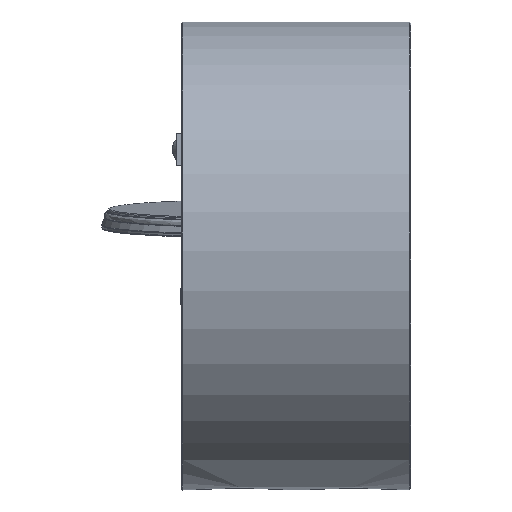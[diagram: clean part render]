
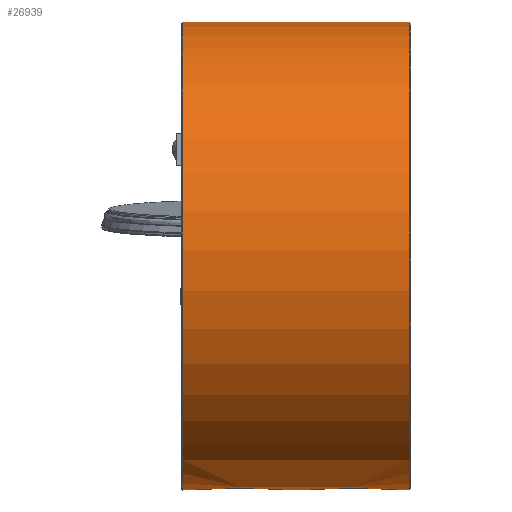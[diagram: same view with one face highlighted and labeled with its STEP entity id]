
A CAD part, left-side view. The second image highlights one B-rep face of the part: STEP entity #26939.
In plain terms, the highlighted free-form (B-spline) face has degree [2, 1] with [7, 2] control points.
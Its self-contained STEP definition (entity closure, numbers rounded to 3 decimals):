
#26174=CARTESIAN_POINT('V34',(0.5,112.5,
   0.0));
#26175=VERTEX_POINT('V34',#26174);
#26183=CARTESIAN_POINT('E41',(0.5,112.5,
   0.0));
#26184=CARTESIAN_POINT('E41',(0.5,112.5,
   -194.856));
#26185=CARTESIAN_POINT('E41',(0.5,-56.25,
   -97.428));
#26186=CARTESIAN_POINT('E41',(0.5,-225.,
   0.));
#26187=CARTESIAN_POINT('E41',(0.5,-56.25,
   97.428));
#26188=CARTESIAN_POINT('E41',(0.5,112.5,
   194.856));
#26189=CARTESIAN_POINT('E41',(0.5,112.5,
   0.0));
#26197=(BOUNDED_CURVE()B_SPLINE_CURVE(2,(#26183,#26184,#26185,
   #26186,#26187,#26188,#26189),.CIRCULAR_ARC.,.T.,.U.)
   B_SPLINE_CURVE_WITH_KNOTS((3,2,2,3),(0.0,549.91,
   1099.821,1649.731),.UNSPECIFIED.)CURVE()
   GEOMETRIC_REPRESENTATION_ITEM()RATIONAL_B_SPLINE_CURVE((1.0,
   0.5,1.0,0.5,1.0,0.5,1.0)
   )REPRESENTATION_ITEM('E41'));
#26198=EDGE_CURVE('E41',#26175,#26175,#26197,.T.);
#26768=CARTESIAN_POINT('V33',(109.5,
   112.5,0.0));
#26769=VERTEX_POINT('V33',#26768);
#26777=CARTESIAN_POINT('E38',(109.5,
   112.5,0.0));
#26778=CARTESIAN_POINT('E38',(109.5,
   112.5,-194.856));
#26779=CARTESIAN_POINT('E38',(109.5,
   -56.25,-97.428));
#26780=CARTESIAN_POINT('E38',(109.5,
   -225.,0.));
#26781=CARTESIAN_POINT('E38',(109.5,
   -56.25,97.428));
#26782=CARTESIAN_POINT('E38',(109.5,
   112.5,194.856));
#26783=CARTESIAN_POINT('E38',(109.5,
   112.5,0.0));
#26791=(BOUNDED_CURVE()B_SPLINE_CURVE(2,(#26777,#26778,#26779,
   #26780,#26781,#26782,#26783),.CIRCULAR_ARC.,.T.,.U.)
   B_SPLINE_CURVE_WITH_KNOTS((3,2,2,3),(0.0,3.575,
   7.151,10.726),.UNSPECIFIED.)CURVE()
   GEOMETRIC_REPRESENTATION_ITEM()RATIONAL_B_SPLINE_CURVE((1.0,
   0.5,1.0,0.5,1.0,0.5,1.0)
   )REPRESENTATION_ITEM('E38'));
#26792=EDGE_CURVE('E38',#26769,#26769,#26791,.T.);
#26802=CARTESIAN_POINT('V27',(99.037,112.5,
   0.0));
#26803=VERTEX_POINT('V27',#26802);
#26804=CARTESIAN_POINT('V28',(99.038,98.,
   55.247));
#26805=VERTEX_POINT('V28',#26804);
#26806=CARTESIAN_POINT('E30',(99.037,112.5,
   0.0));
#26807=CARTESIAN_POINT('E30',(99.038,112.5,
   29.526));
#26808=CARTESIAN_POINT('E30',(99.038,98.,
   55.247));
#26816=(BOUNDED_CURVE()B_SPLINE_CURVE(2,(#26806,#26807,#26808),
   .CIRCULAR_ARC.,.F.,.U.)CURVE()GEOMETRIC_REPRESENTATION_ITEM()
   QUASI_UNIFORM_CURVE()RATIONAL_B_SPLINE_CURVE((1.0,
   0.868,0.806))REPRESENTATION_ITEM('E30'));
#26817=EDGE_CURVE('E30',#26803,#26805,#26816,.T.);
#26819=CARTESIAN_POINT('V29',(99.038,98.,
   -55.247));
#26820=VERTEX_POINT('V29',#26819);
#26826=CARTESIAN_POINT('E32',(99.038,98.,
   -55.247));
#26827=CARTESIAN_POINT('E32',(99.038,112.5,
   -29.526));
#26828=CARTESIAN_POINT('E32',(99.037,112.5,
   0.0));
#26836=(BOUNDED_CURVE()B_SPLINE_CURVE(2,(#26826,#26827,#26828),
   .CIRCULAR_ARC.,.F.,.U.)CURVE()GEOMETRIC_REPRESENTATION_ITEM()
   QUASI_UNIFORM_CURVE()RATIONAL_B_SPLINE_CURVE((0.806,
   0.868,1.0))REPRESENTATION_ITEM('E32'));
#26837=EDGE_CURVE('E32',#26820,#26803,#26836,.T.);
#26847=CARTESIAN_POINT('V30',(50.962,112.5,
   0.0));
#26848=VERTEX_POINT('V30',#26847);
#26849=CARTESIAN_POINT('V31',(50.962,98.,
   -55.247));
#26850=VERTEX_POINT('V31',#26849);
#26851=CARTESIAN_POINT('E33',(50.962,112.5,
   0.0));
#26852=CARTESIAN_POINT('E33',(50.962,112.5,
   -29.526));
#26853=CARTESIAN_POINT('E33',(50.962,98.,
   -55.247));
#26861=(BOUNDED_CURVE()B_SPLINE_CURVE(2,(#26851,#26852,#26853),
   .CIRCULAR_ARC.,.F.,.U.)CURVE()GEOMETRIC_REPRESENTATION_ITEM()
   QUASI_UNIFORM_CURVE()RATIONAL_B_SPLINE_CURVE((1.0,
   0.868,0.806))REPRESENTATION_ITEM('E33'));
#26862=EDGE_CURVE('E33',#26848,#26850,#26861,.T.);
#26864=CARTESIAN_POINT('V32',(50.962,98.,
   55.247));
#26865=VERTEX_POINT('V32',#26864);
#26871=CARTESIAN_POINT('E35',(50.962,98.,
   55.247));
#26872=CARTESIAN_POINT('E35',(50.962,112.5,
   29.526));
#26873=CARTESIAN_POINT('E35',(50.962,112.5,
   0.0));
#26881=(BOUNDED_CURVE()B_SPLINE_CURVE(2,(#26871,#26872,#26873),
   .CIRCULAR_ARC.,.F.,.U.)CURVE()GEOMETRIC_REPRESENTATION_ITEM()
   QUASI_UNIFORM_CURVE()RATIONAL_B_SPLINE_CURVE((0.806,
   0.868,1.0))REPRESENTATION_ITEM('E35'));
#26882=EDGE_CURVE('E35',#26865,#26848,#26881,.T.);
#26887=CARTESIAN_POINT('F9',(0.5,112.5,
   0.0));
#26888=CARTESIAN_POINT('F9',(0.5,112.5,
   194.856));
#26889=CARTESIAN_POINT('F9',(0.5,-56.25,
   97.428));
#26890=CARTESIAN_POINT('F9',(0.5,-225.,
   0.));
#26891=CARTESIAN_POINT('F9',(0.5,-56.25,
   -97.428));
#26892=CARTESIAN_POINT('F9',(0.5,112.5,
   -194.856));
#26893=CARTESIAN_POINT('F9',(0.5,112.5,
   0.0));
#26894=CARTESIAN_POINT('F9',(109.5,112.5,
   0.0));
#26895=CARTESIAN_POINT('F9',(109.5,112.5,
   194.856));
#26896=CARTESIAN_POINT('F9',(109.5,-56.25,
   97.428));
#26897=CARTESIAN_POINT('F9',(109.5,
   -225.,0.));
#26898=CARTESIAN_POINT('F9',(109.5,-56.25,
   -97.428));
#26899=CARTESIAN_POINT('F9',(109.5,112.5,
   -194.856));
#26900=CARTESIAN_POINT('F9',(109.5,112.5,
   0.0));
#26908=(BOUNDED_SURFACE()B_SPLINE_SURFACE(2,1,((#26887,#26894),(
   #26888,#26895),(#26889,#26896),(#26890,#26897),(#26891,
   #26898),(#26892,#26899),(#26893,#26900)),.CYLINDRICAL_SURF.,
   .T.,.F.,.U.)B_SPLINE_SURFACE_WITH_KNOTS((3,2,2,3),(2,2),(0.0,
   3.575,7.151,10.726),(0.0,1.0),
   .UNSPECIFIED.)GEOMETRIC_REPRESENTATION_ITEM()
   RATIONAL_B_SPLINE_SURFACE(((1.0,1.0),(0.5,
   0.5),(1.0,1.0),(0.5,
   0.5),(1.0,1.0),(0.5,
   0.5),(1.0,1.0)))REPRESENTATION_ITEM('F9')SURFACE()
   );
#26909=ORIENTED_EDGE('E33',*,*,#26862,.F.);
#26910=CARTESIAN_POINT('E40',(50.962,112.5,
   0.0));
#26911=CARTESIAN_POINT('E40',(0.5,112.5,
   0.0));
#26912=B_SPLINE_CURVE_WITH_KNOTS('E40',1,(#26910,#26911),
   .POLYLINE_FORM.,.F.,.U.,(2,2),(0.537,1.0),
   .UNSPECIFIED.);
#26913=EDGE_CURVE('E40',#26848,#26175,#26912,.T.);
#26914=ORIENTED_EDGE('E40',*,*,#26913,.T.);
#26915=ORIENTED_EDGE('E41',*,*,#26198,.T.);
#26916=ORIENTED_EDGE('E40',*,*,#26913,.F.);
#26917=ORIENTED_EDGE('F8',*,*,#26882,.F.);
#26918=CARTESIAN_POINT('E39',(99.037,98.0,
   55.247));
#26919=CARTESIAN_POINT('E39',(50.963,98.0,
   55.247));
#26920=QUASI_UNIFORM_CURVE('E39',1,(#26918,#26919),.POLYLINE_FORM.,
   .F.,.U.);
#26921=EDGE_CURVE('E39',#26805,#26865,#26920,.T.);
#26922=ORIENTED_EDGE('E39',*,*,#26921,.F.);
#26923=ORIENTED_EDGE('E30',*,*,#26817,.F.);
#26924=CARTESIAN_POINT('E37',(109.5,
   112.5,0.0));
#26925=CARTESIAN_POINT('E37',(99.037,112.5,
   0.0));
#26926=B_SPLINE_CURVE_WITH_KNOTS('E37',1,(#26924,#26925),
   .POLYLINE_FORM.,.F.,.U.,(2,2),(0.0,0.096),
   .UNSPECIFIED.);
#26927=EDGE_CURVE('E37',#26769,#26803,#26926,.T.);
#26928=ORIENTED_EDGE('E37',*,*,#26927,.F.);
#26929=ORIENTED_EDGE('F11',*,*,#26792,.F.);
#26930=ORIENTED_EDGE('E37',*,*,#26927,.T.);
#26931=ORIENTED_EDGE('F7',*,*,#26837,.F.);
#26932=CARTESIAN_POINT('E36',(50.963,98.0,
   -55.247));
#26933=CARTESIAN_POINT('E36',(99.037,98.0,
   -55.247));
#26934=QUASI_UNIFORM_CURVE('E36',1,(#26932,#26933),.POLYLINE_FORM.,
   .F.,.U.);
#26935=EDGE_CURVE('E36',#26850,#26820,#26934,.T.);
#26936=ORIENTED_EDGE('E36',*,*,#26935,.F.);
#26937=EDGE_LOOP('F9',(#26909,#26914,#26915,#26916,#26917,#26922,
   #26923,#26928,#26929,#26930,#26931,#26936));
#26938=FACE_OUTER_BOUND('F9',#26937,.F.);
#26939=ADVANCED_FACE('F9',(#26938),#26908,.T.);
